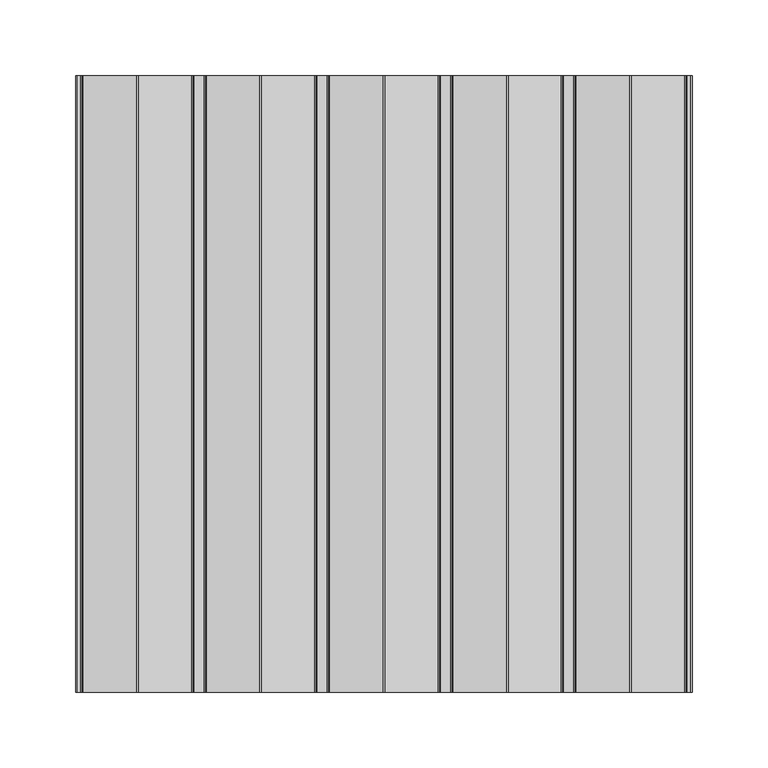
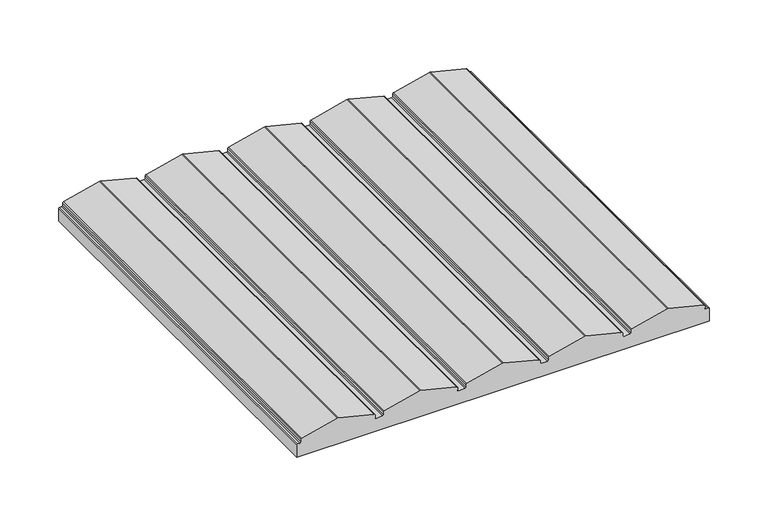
"""IFC4 building model written with IfcOpenShell, lengths in millimetres: proxy geometry, Spinneybeck_Porto 2 : Porto 2."""

from ifc_helpers import new_model, si_unit, point, frame, frame_2d, origin, place, context, project, spatial, polyline, circle_curve, trimmed, segment, composite_curve, outline, extrude, source, transform, mapped, element, save


def specialty_equipment_52cbe585(model_context):
    return source(origin(), model_context, "Body", "SweptSolid", [
        extrude(outline(composite_curve([segment(polyline([(0.0, -203.2), (0.0, 203.2), (12.5078125, 203.2)]), True, "CONTINUOUS"), segment(trimmed(circle_curve(frame_2d((12.5078125, 202.2078125)), 0.9921875), [point((12.5078125, 203.2))], [point((13.5, 202.2078125))], False, "CARTESIAN"), True, "CONTINUOUS"), segment(polyline([(13.5, 202.2078125), (13.5, 199.9465867)]), True, "CONTINUOUS"), segment(trimmed(circle_curve(frame_2d((14.4921875, 199.9465867)), 0.9921875), [point((13.5, 199.9465867))], [point((14.4921875, 198.9543992))], True, "CARTESIAN"), True, "CONTINUOUS"), segment(polyline([(14.4921875, 198.9543992), (17.1606187, 198.9543992)]), True, "CONTINUOUS"), segment(trimmed(circle_curve(frame_2d((17.1606187, 197.9749387)), 0.9794605), [point((17.1606187, 198.9543992))], [point((18.1109851, 198.2118916))], False, "CARTESIAN"), True, "CONTINUOUS"), segment(polyline([(18.1109851, 198.2118916), (26.7965213, 163.3761084)]), True, "CONTINUOUS"), segment(trimmed(circle_curve(frame_2d((23.5232893, 162.56)), 3.3734375), [point((26.7965213, 163.3761084))], [point((26.7965213, 161.7438916))], False, "CARTESIAN"), True, "CONTINUOUS"), segment(polyline([(26.7965213, 161.7438916), (18.1109851, 126.9081084)]), True, "CONTINUOUS"), segment(trimmed(circle_curve(frame_2d((17.1606187, 127.1450613)), 0.9794605), [point((18.1109851, 126.9081084))], [point((17.1606187, 126.1656008))], False, "CARTESIAN"), True, "CONTINUOUS"), segment(polyline([(17.1606187, 126.1656008), (14.4921875, 126.1656008)]), True, "CONTINUOUS"), segment(trimmed(circle_curve(frame_2d((14.4921875, 125.1734133)), 0.9921875), [point((14.4921875, 126.1656008))], [point((13.5, 125.1734133))], True, "CARTESIAN"), True, "CONTINUOUS"), segment(polyline([(13.5, 125.1734133), (13.5, 118.6665867)]), True, "CONTINUOUS"), segment(trimmed(circle_curve(frame_2d((14.4921875, 118.6665867)), 0.9921875), [point((13.5, 118.6665867))], [point((14.4921875, 117.6743992))], True, "CARTESIAN"), True, "CONTINUOUS"), segment(polyline([(14.4921875, 117.6743992), (17.1606187, 117.6743992)]), True, "CONTINUOUS"), segment(trimmed(circle_curve(frame_2d((17.1606187, 116.6949387)), 0.9794605), [point((17.1606187, 117.6743992))], [point((18.1109851, 116.9318916))], False, "CARTESIAN"), True, "CONTINUOUS"), segment(polyline([(18.1109851, 116.9318916), (26.7965213, 82.0961084)]), True, "CONTINUOUS"), segment(trimmed(circle_curve(frame_2d((23.5232893, 81.28)), 3.3734375), [point((26.7965213, 82.0961084))], [point((26.7965213, 80.4638916))], False, "CARTESIAN"), True, "CONTINUOUS"), segment(polyline([(26.7965213, 80.4638916), (18.1109851, 45.6281084)]), True, "CONTINUOUS"), segment(trimmed(circle_curve(frame_2d((17.1606187, 45.8650613)), 0.9794605), [point((18.1109851, 45.6281084))], [point((17.1606187, 44.8856008))], False, "CARTESIAN"), True, "CONTINUOUS"), segment(polyline([(17.1606187, 44.8856008), (14.4921875, 44.8856008)]), True, "CONTINUOUS"), segment(trimmed(circle_curve(frame_2d((14.4921875, 43.8934133)), 0.9921875), [point((14.4921875, 44.8856008))], [point((13.5, 43.8934133))], True, "CARTESIAN"), True, "CONTINUOUS"), segment(polyline([(13.5, 43.8934133), (13.5, 37.3865867)]), True, "CONTINUOUS"), segment(trimmed(circle_curve(frame_2d((14.4921875, 37.3865867)), 0.9921875), [point((13.5, 37.3865867))], [point((14.4921875, 36.3943992))], True, "CARTESIAN"), True, "CONTINUOUS"), segment(polyline([(14.4921875, 36.3943992), (17.1606187, 36.3943992)]), True, "CONTINUOUS"), segment(trimmed(circle_curve(frame_2d((17.1606187, 35.4149387)), 0.9794605), [point((17.1606187, 36.3943992))], [point((18.1109851, 35.6518916))], False, "CARTESIAN"), True, "CONTINUOUS"), segment(polyline([(18.1109851, 35.6518916), (26.7965213, 0.8161084)]), True, "CONTINUOUS"), segment(trimmed(circle_curve(frame_2d((23.5232893, 0.0)), 3.3734375), [point((26.7965213, 0.8161084))], [point((26.7965213, -0.8161084))], False, "CARTESIAN"), True, "CONTINUOUS"), segment(polyline([(26.7965213, -0.8161084), (18.1109851, -35.6518916)]), True, "CONTINUOUS"), segment(trimmed(circle_curve(frame_2d((17.1606187, -35.4149387)), 0.9794605), [point((18.1109851, -35.6518916))], [point((17.1606187, -36.3943992))], False, "CARTESIAN"), True, "CONTINUOUS"), segment(polyline([(17.1606187, -36.3943992), (14.4921875, -36.3943992)]), True, "CONTINUOUS"), segment(trimmed(circle_curve(frame_2d((14.4921875, -37.3865867)), 0.9921875), [point((14.4921875, -36.3943992))], [point((13.5, -37.3865867))], True, "CARTESIAN"), True, "CONTINUOUS"), segment(polyline([(13.5, -37.3865867), (13.5, -43.8934133)]), True, "CONTINUOUS"), segment(trimmed(circle_curve(frame_2d((14.4921875, -43.8934133)), 0.9921875), [point((13.5, -43.8934133))], [point((14.4921875, -44.8856008))], True, "CARTESIAN"), True, "CONTINUOUS"), segment(polyline([(14.4921875, -44.8856008), (17.1606187, -44.8856008)]), True, "CONTINUOUS"), segment(trimmed(circle_curve(frame_2d((17.1606187, -45.8650613)), 0.9794605), [point((17.1606187, -44.8856008))], [point((18.1109851, -45.6281084))], False, "CARTESIAN"), True, "CONTINUOUS"), segment(polyline([(18.1109851, -45.6281084), (26.7965213, -80.4638916)]), True, "CONTINUOUS"), segment(trimmed(circle_curve(frame_2d((23.5232893, -81.28)), 3.3734375), [point((26.7965213, -80.4638916))], [point((26.7965213, -82.0961084))], False, "CARTESIAN"), True, "CONTINUOUS"), segment(polyline([(26.7965213, -82.0961084), (18.1109851, -116.9318916)]), True, "CONTINUOUS"), segment(trimmed(circle_curve(frame_2d((17.1606187, -116.6949387)), 0.9794605), [point((18.1109851, -116.9318916))], [point((17.1606187, -117.6743992))], False, "CARTESIAN"), True, "CONTINUOUS"), segment(polyline([(17.1606187, -117.6743992), (14.4921875, -117.6743992)]), True, "CONTINUOUS"), segment(trimmed(circle_curve(frame_2d((14.4921875, -118.6665867)), 0.9921875), [point((14.4921875, -117.6743992))], [point((13.5, -118.6665867))], True, "CARTESIAN"), True, "CONTINUOUS"), segment(polyline([(13.5, -118.6665867), (13.5, -125.1734133)]), True, "CONTINUOUS"), segment(trimmed(circle_curve(frame_2d((14.4921875, -125.1734133)), 0.9921875), [point((13.5, -125.1734133))], [point((14.4921875, -126.1656008))], True, "CARTESIAN"), True, "CONTINUOUS"), segment(polyline([(14.4921875, -126.1656008), (17.1606187, -126.1656008)]), True, "CONTINUOUS"), segment(trimmed(circle_curve(frame_2d((17.1606187, -127.1450613)), 0.9794605), [point((17.1606187, -126.1656008))], [point((18.1109851, -126.9081084))], False, "CARTESIAN"), True, "CONTINUOUS"), segment(polyline([(18.1109851, -126.9081084), (26.7972605, -161.7468564)]), True, "CONTINUOUS"), segment(trimmed(circle_curve(frame_2d((23.5359198, -162.56)), 3.3611822), [point((26.7972605, -161.7468564))], [point((26.7972605, -163.3731436))], False, "CARTESIAN"), True, "CONTINUOUS"), segment(polyline([(26.7972605, -163.3731436), (18.1109851, -198.2118916)]), True, "CONTINUOUS"), segment(trimmed(circle_curve(frame_2d((17.1606187, -197.9749387)), 0.9794605), [point((18.1109851, -198.2118916))], [point((17.1606187, -198.9543992))], False, "CARTESIAN"), True, "CONTINUOUS"), segment(polyline([(17.1606187, -198.9543992), (14.4921875, -198.9543992)]), True, "CONTINUOUS"), segment(trimmed(circle_curve(frame_2d((14.4921875, -199.9465867)), 0.9921875), [point((14.4921875, -198.9543992))], [point((13.5, -199.9465867))], True, "CARTESIAN"), True, "CONTINUOUS"), segment(polyline([(13.5, -199.9465867), (13.5, -202.2078125)]), True, "CONTINUOUS"), segment(trimmed(circle_curve(frame_2d((12.5078125, -202.2078125)), 0.9921875), [point((13.5, -202.2078125))], [point((12.5078125, -203.2))], False, "CARTESIAN"), True, "CONTINUOUS"), segment(polyline([(12.5078125, -203.2), (0.0, -203.2)]), True, "CONTINUOUS")], self_intersect=False)), frame((0.0, -203.2, 0.0), z_axis=(0.0, 1.0, 0.0), x_axis=(0.0, 0.0, 1.0)), (0.0, 0.0, 1.0), 406.4),
    ])


if __name__ == "__main__":
    model = new_model("IFC4")
    model_context = context("Model", 3, world=origin())
    ifc_project = project(units=[si_unit("LENGTHUNIT", "METRE", prefix="MILLI")], contexts=[model_context])
    site = spatial("IfcSite", under=ifc_project)
    building = spatial("IfcBuilding", under=site)
    placement = place(None, origin())
    specialty_equipment_shape = specialty_equipment_52cbe585(model_context)
    element("IfcBuildingElementProxy", 1, Name="Spinneybeck_Porto 2 : Porto 2", ObjectType="Spinneybeck_Porto 2 : Porto 2", at=placement, inside=building, context=model_context, shape_type="MappedRepresentation", body=[
        mapped(specialty_equipment_shape, transform((0.0, 0.0, 0.0), x_axis=(1.0, 0.0, 0.0), y_axis=(0.0, 1.0, 0.0), z_axis=(0.0, 0.0, 1.0))),
    ])
    save(model, "model.ifc")
